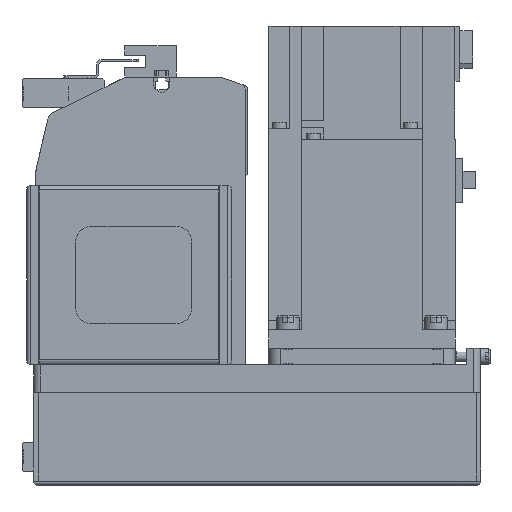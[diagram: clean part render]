
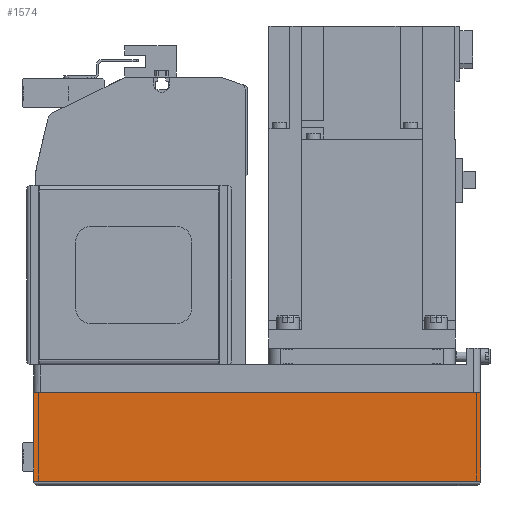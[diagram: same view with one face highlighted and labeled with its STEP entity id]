
A CAD part, left-side view. The second image highlights one B-rep face of the part: STEP entity #1574.
In plain terms, the highlighted planar face has unit normal (-1, 0, 0) as drawn and (0, 1, 0) by its records, which use the part's own axes.
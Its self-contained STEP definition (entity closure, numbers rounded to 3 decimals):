
#1574 = ADVANCED_FACE( '', ( #3947 ), #3948, .T. );
#3947 = FACE_OUTER_BOUND( '', #7379, .T. );
#3948 = PLANE( '', #7380 );
#7379 = EDGE_LOOP( '', ( #11781, #11782, #11783, #11784 ) );
#7380 = AXIS2_PLACEMENT_3D( '', #11785, #11786, #11787 );
#11781 = ORIENTED_EDGE( '', *, *, #20180, .F. );
#11782 = ORIENTED_EDGE( '', *, *, #20387, .F. );
#11783 = ORIENTED_EDGE( '', *, *, #20388, .T. );
#11784 = ORIENTED_EDGE( '', *, *, #19693, .T. );
#11785 = CARTESIAN_POINT( '', ( -192., 40., -50. ) );
#11786 = DIRECTION( '', ( 0., 1., 0. ) );
#11787 = DIRECTION( '', ( 0., 0., 1. ) );
#19693 = EDGE_CURVE( '', #23076, #23491, #23493, .T. );
#20180 = EDGE_CURVE( '', #24332, #23491, #24334, .T. );
#20387 = EDGE_CURVE( '', #24678, #24332, #24679, .T. );
#20388 = EDGE_CURVE( '', #24678, #23076, #24680, .T. );
#23076 = VERTEX_POINT( '', #28439 );
#23491 = VERTEX_POINT( '', #29081 );
#23493 = LINE( '', #29084, #29085 );
#24332 = VERTEX_POINT( '', #30318 );
#24334 = LINE( '', #30321, #30322 );
#24678 = VERTEX_POINT( '', #30779 );
#24679 = LINE( '', #30780, #30781 );
#24680 = LINE( '', #30782, #30783 );
#28439 = CARTESIAN_POINT( '', ( -192., 40., -12.1 ) );
#29081 = CARTESIAN_POINT( '', ( 0., 40., -12.1 ) );
#29084 = CARTESIAN_POINT( '', ( -192., 40., -12.1 ) );
#29085 = VECTOR( '', #36694, 1000. );
#30318 = CARTESIAN_POINT( '', ( 0., 40., -50. ) );
#30321 = CARTESIAN_POINT( '', ( 0., 40., -50. ) );
#30322 = VECTOR( '', #37285, 1000. );
#30779 = CARTESIAN_POINT( '', ( -192., 40., -50. ) );
#30780 = CARTESIAN_POINT( '', ( -192., 40., -50. ) );
#30781 = VECTOR( '', #37546, 1000. );
#30782 = CARTESIAN_POINT( '', ( -192., 40., -50. ) );
#30783 = VECTOR( '', #37547, 1000. );
#36694 = DIRECTION( '', ( 1., 0., 0. ) );
#37285 = DIRECTION( '', ( 0., 0., 1. ) );
#37546 = DIRECTION( '', ( 1., 0., 0. ) );
#37547 = DIRECTION( '', ( 0., 0., 1. ) );
